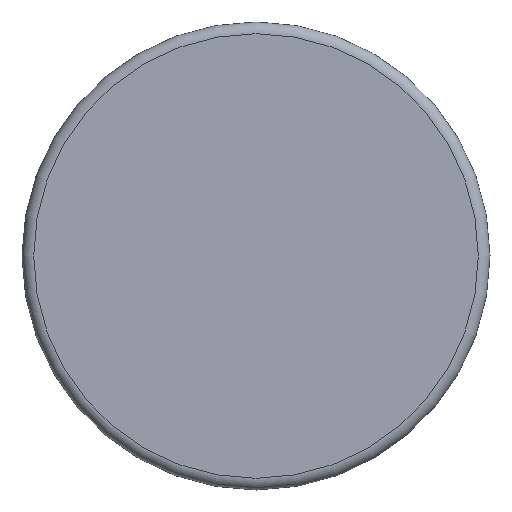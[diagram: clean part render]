
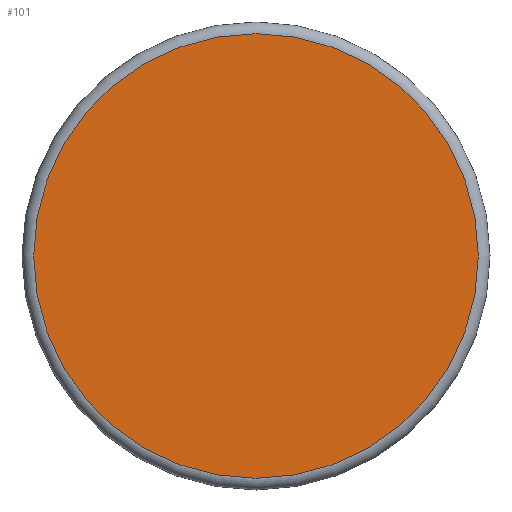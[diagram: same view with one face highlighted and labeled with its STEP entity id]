
A CAD part, front view. The second image highlights one B-rep face of the part: STEP entity #101.
In plain terms, the highlighted planar face has unit normal (0, -1, 0).
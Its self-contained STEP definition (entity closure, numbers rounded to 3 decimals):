
#85=CARTESIAN_POINT('',(-3.8,0.,0.0));
#86=DIRECTION('',(0.0,-1.0,0.0));
#87=DIRECTION('',(0.0,0.0,-1.0));
#88=AXIS2_PLACEMENT_3D('',#85,#86,#87);
#89=PLANE('',#88);
#90=CARTESIAN_POINT('',(-7.6,0.,0.0));
#91=VERTEX_POINT('',#90);
#92=CARTESIAN_POINT('',(0.0,0.0,0.0));
#93=DIRECTION('',(0.0,1.0,0.0));
#94=DIRECTION('',(-1.0,0.0,0.0));
#95=AXIS2_PLACEMENT_3D('',#92,#93,#94);
#96=CIRCLE('',#95,7.6);
#97=EDGE_CURVE('',#91,#91,#96,.T.);
#98=ORIENTED_EDGE('',*,*,#97,.F.);
#99=EDGE_LOOP('',(#98));
#100=FACE_OUTER_BOUND('',#99,.T.);
#101=ADVANCED_FACE('',(#100),#89,.T.);
